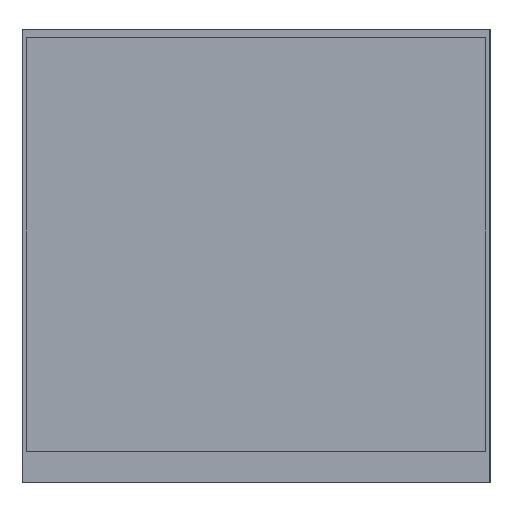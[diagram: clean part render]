
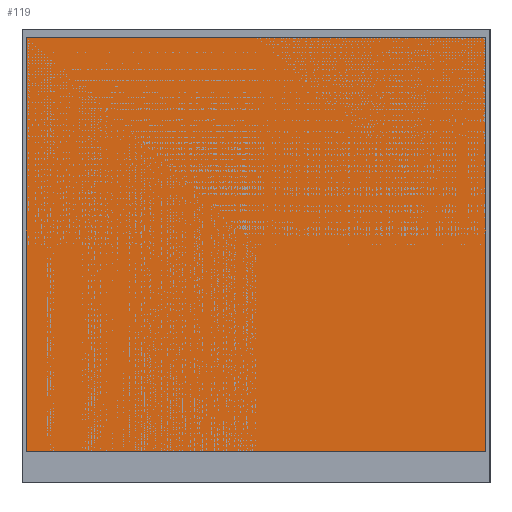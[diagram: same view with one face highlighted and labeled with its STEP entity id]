
A CAD part, left-side view. The second image highlights one B-rep face of the part: STEP entity #119.
In plain terms, the highlighted planar face has unit normal (-1, 0, 0).
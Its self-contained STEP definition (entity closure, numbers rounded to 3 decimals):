
#21 = EDGE_CURVE('',#22,#24,#26,.T.);
#22 = VERTEX_POINT('',#23);
#23 = CARTESIAN_POINT('',(-0.8,-0.4,0.08));
#24 = VERTEX_POINT('',#25);
#25 = CARTESIAN_POINT('',(-0.8,-0.4,0.8));
#26 = LINE('',#27,#28);
#27 = CARTESIAN_POINT('',(-0.8,-0.4,0.08));
#28 = VECTOR('',#29,1.);
#29 = DIRECTION('',(0.,0.,1.));
#94 = VERTEX_POINT('',#95);
#95 = CARTESIAN_POINT('',(-0.8,0.4,0.8));
#101 = EDGE_CURVE('',#102,#94,#104,.T.);
#102 = VERTEX_POINT('',#103);
#103 = CARTESIAN_POINT('',(-0.8,0.4,0.08));
#104 = LINE('',#105,#106);
#105 = CARTESIAN_POINT('',(-0.8,0.4,0.08));
#106 = VECTOR('',#107,1.);
#107 = DIRECTION('',(0.,0.,1.));
#119 = ADVANCED_FACE('',(#120),#136,.F.);
#120 = FACE_BOUND('',#121,.F.);
#121 = EDGE_LOOP('',(#122,#123,#129,#130));
#122 = ORIENTED_EDGE('',*,*,#101,.T.);
#123 = ORIENTED_EDGE('',*,*,#124,.T.);
#124 = EDGE_CURVE('',#94,#24,#125,.T.);
#125 = LINE('',#126,#127);
#126 = CARTESIAN_POINT('',(-0.8,0.4,0.8));
#127 = VECTOR('',#128,1.);
#128 = DIRECTION('',(0.,-1.,0.));
#129 = ORIENTED_EDGE('',*,*,#21,.F.);
#130 = ORIENTED_EDGE('',*,*,#131,.F.);
#131 = EDGE_CURVE('',#102,#22,#132,.T.);
#132 = LINE('',#133,#134);
#133 = CARTESIAN_POINT('',(-0.8,0.4,0.08));
#134 = VECTOR('',#135,1.);
#135 = DIRECTION('',(0.,-1.,0.));
#136 = PLANE('',#137);
#137 = AXIS2_PLACEMENT_3D('',#138,#139,#140);
#138 = CARTESIAN_POINT('',(-0.8,0.4,0.08));
#139 = DIRECTION('',(1.,0.,-0.));
#140 = DIRECTION('',(0.,-1.,0.));
